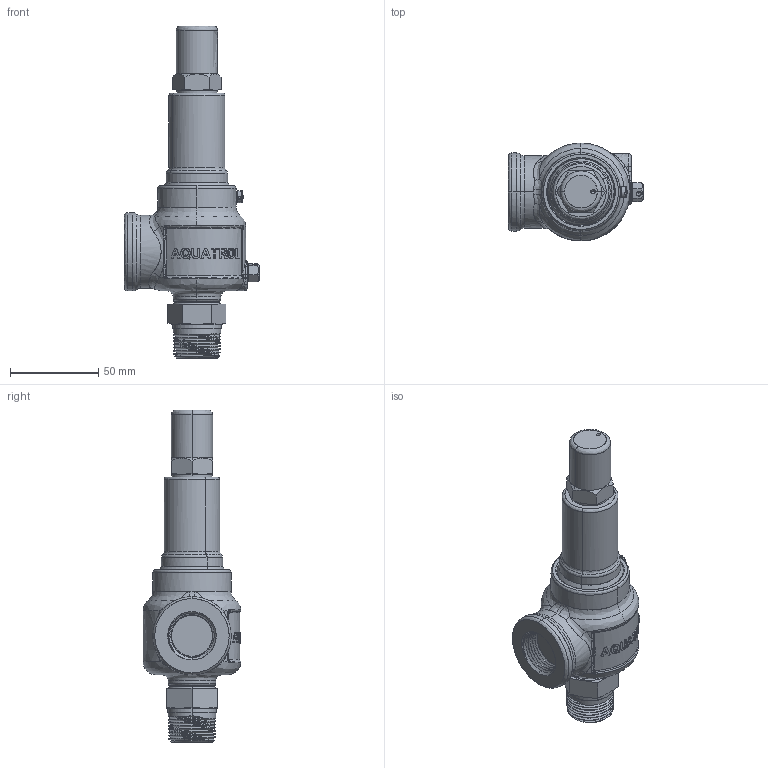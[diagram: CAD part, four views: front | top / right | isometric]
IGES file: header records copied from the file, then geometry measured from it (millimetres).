
Start section: SolidWorks IGES file using NURBS representation for surfaces
Global section: file name: C:\Design\Design\Aquatrol\Customer 3D Files\Series 740 Customer Files\D Orifice\Customer\Iges Files\Series 740 D 750 x 750 Closed Cap.IGS; native system: SolidWorks 2015; preprocessor: SolidWorks 2015; author: Karl; date: 150515.081237; units: inch
Bounding box: 76.94 x 55.56 x 188.56 mm (x, y, z)
Surface area: 30601.5 mm2 (no closed solid volume)
Topology: 0 solids, 0 shells, 362 faces, 6541 edges, 6541 vertices
Faces by surface type: bspline 362
